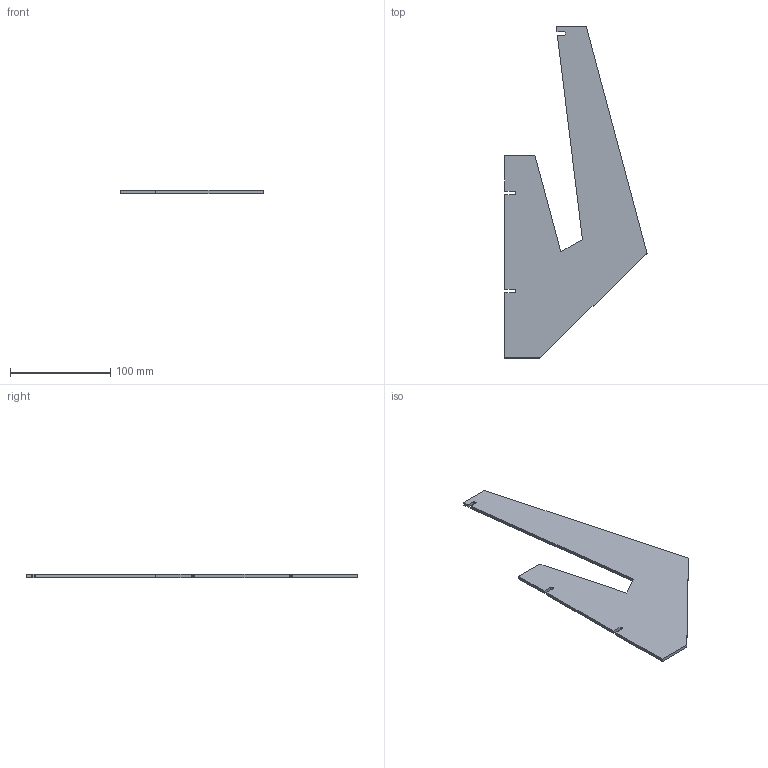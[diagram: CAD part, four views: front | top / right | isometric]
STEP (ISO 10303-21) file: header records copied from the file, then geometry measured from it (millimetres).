
FILE_DESCRIPTION(/* description */ (''),/* implementation_level */ '2;1');
FILE_NAME(/* name */ '/var/folders/_9/13ct5lzd5x98qhw9g85_2_nh0000gn/T/com.autodesk.mas.fusion360/Neutron/2a194898-b37d-4131-9c5c-794dd1e7c0d0.stp',/* time_stamp */ '2019-05-06T23:43:51+02:00',/* author */ ('philip.daigreja@tu-dortmund.de'),/* organization */ (''),/* preprocessor_version */ 'ST-DEVELOPER v18',/* originating_system */ 'Autodesk Translation Framework v8.2.0.1029',/* authorisation */ '');
FILE_SCHEMA (('AUTOMOTIVE_DESIGN { 1 0 10303 214 3 1 1 }'));
Length unit declared in the file: millimetre
Products named in the file (1): Floor_Lamp_fin
Bounding box: 142.15 x 331.96 x 3 mm (x, y, z)
Volume: 72390.6 mm3; surface area: 51493 mm2
Topology: 1 solids, 1 shells, 29 faces, 81 edges, 54 vertices
Faces by surface type: plane 23, cylinder 6
Entity records: 960 total; most frequent: CARTESIAN_POINT 165, ORIENTED_EDGE 162, DIRECTION 153, EDGE_CURVE 81, LINE 69, VECTOR 69, VERTEX_POINT 54, AXIS2_PLACEMENT_3D 42
